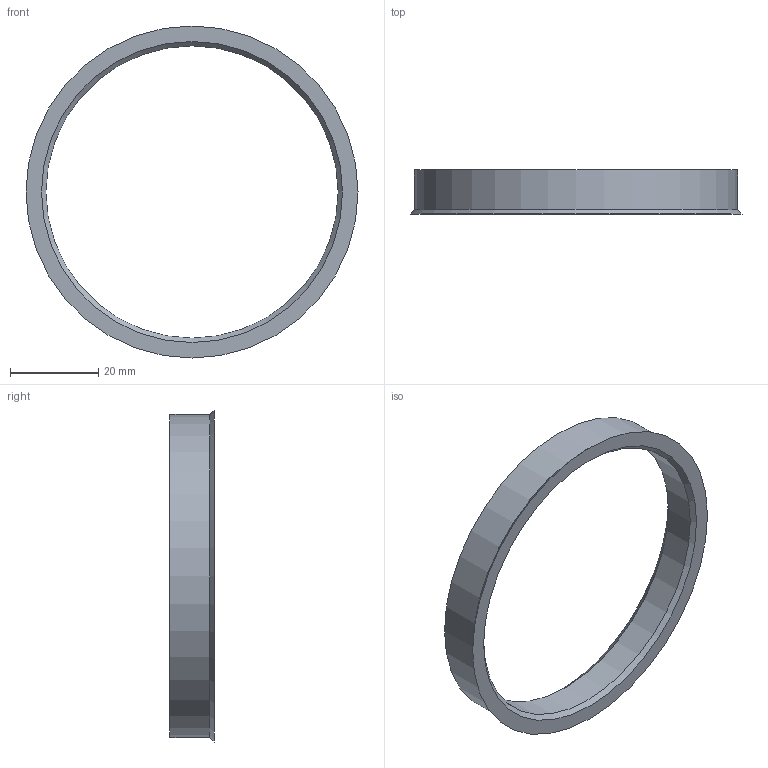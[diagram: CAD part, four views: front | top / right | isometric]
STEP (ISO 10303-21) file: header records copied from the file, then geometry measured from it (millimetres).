
FILE_DESCRIPTION(/* description */ (''),/* implementation_level */ '2;1');
FILE_NAME(/* name */ 'G:\CAD Library\Team Tasks\DIPP\11th Intake\Bradley Coles\Design Drafting\Random\Hub Rings\ipt\HubRing_73.1-66.1.stp',/* time_stamp */ '2025-07-22T13:46:21+08:00',/* author */ ('BCOLES'),/* organization */ (''),/* preprocessor_version */ 'ST-DEVELOPER v18.1',/* originating_system */ 'Autodesk Inventor 2022',/* authorisation */ '');
FILE_SCHEMA (('AUTOMOTIVE_DESIGN { 1 0 10303 214 3 1 1 }'));
Length unit declared in the file: millimetre
Products named in the file (1): HubRing_73.1-66.1
Bounding box: 75.1 x 10 x 75.1 mm (x, y, z)
Volume: 7240.2 mm3; surface area: 5877.6 mm2
Topology: 1 solids, 1 shells, 7 faces, 13 edges, 8 vertices
Faces by surface type: cone 3, cylinder 2, plane 2
Full cylindrical faces by diameter (mm): 66.1 x1, 73.1 x1
Entity records: 226 total; most frequent: DIRECTION 37, CARTESIAN_POINT 29, ORIENTED_EDGE 26, AXIS2_PLACEMENT_3D 16, EDGE_CURVE 13, EDGE_LOOP 9, CIRCLE 8, VERTEX_POINT 8
